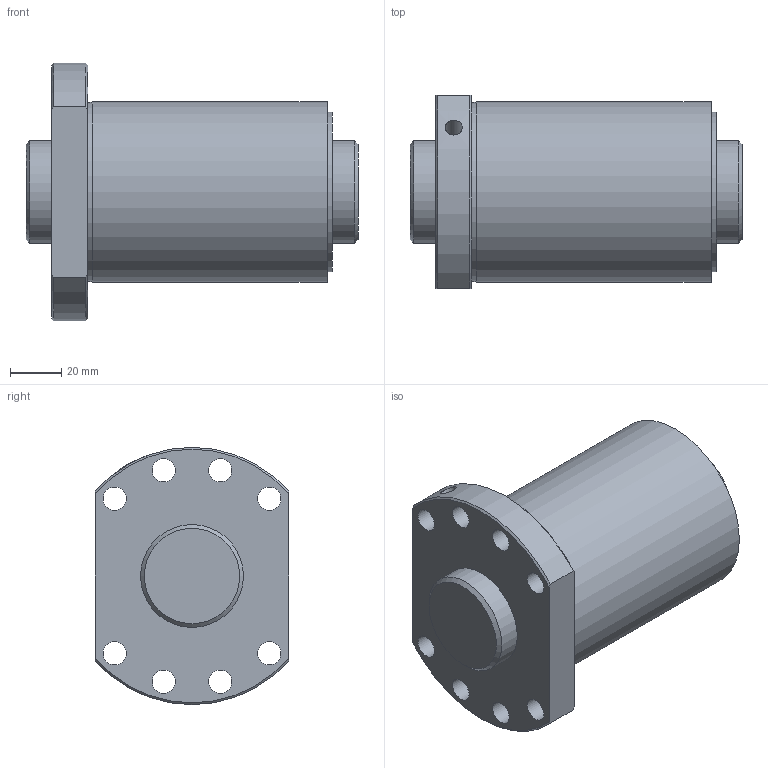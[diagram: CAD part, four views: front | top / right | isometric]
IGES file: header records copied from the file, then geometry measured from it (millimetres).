
Start section: Data from Parasolid IGES Translator 26.0.171, Copyright(c) 2006 Siemens PLM Software. All Rights Reserved.
Global section: file name: SDA4025VA-4G0+129LC0(0G000).igs; native system: By Siemens PLM Incorporated; preprocessor: XPlus GENERIC/IGES 26.0.171; author: Noname; organization: Noname; date: 20240528.114239; units: millimetre
Bounding box: 129 x 75 x 100 mm (x, y, z)
Surface area: 70817.2 mm2 (no closed solid volume)
Topology: 0 solids, 0 shells, 33 faces, 158 edges, 139 vertices
Faces by surface type: revolution 24, extrusion 9
